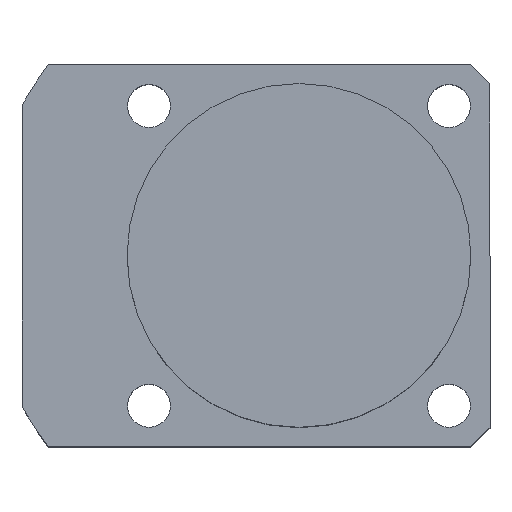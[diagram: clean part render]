
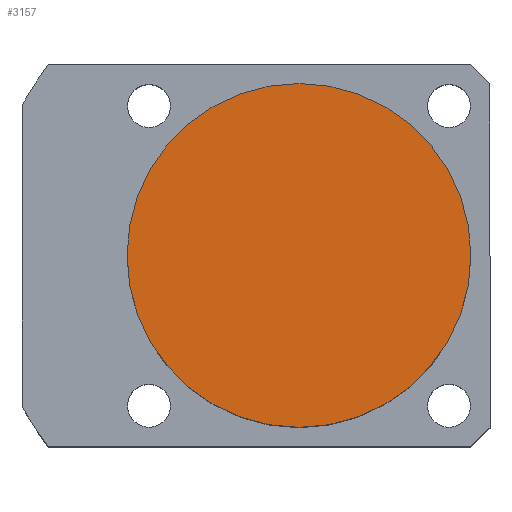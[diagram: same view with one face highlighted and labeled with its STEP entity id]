
A CAD part, top view. The second image highlights one B-rep face of the part: STEP entity #3157.
In plain terms, the highlighted planar face has unit normal (0, 0, 1).
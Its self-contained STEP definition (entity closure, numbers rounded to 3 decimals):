
#18 = DIRECTION ( 'NONE',  ( 0., 0., 1. ) ) ;
#254 = CARTESIAN_POINT ( 'NONE',  ( 18., 0., 33.5 ) ) ;
#405 = DIRECTION ( 'NONE',  ( 0., 0., 1. ) ) ;
#651 = CARTESIAN_POINT ( 'NONE',  ( -18., 0., 33.5 ) ) ;
#1021 = CIRCLE ( 'NONE', #1103, 18. ) ;
#1051 = VERTEX_POINT ( 'NONE', #651 ) ;
#1103 = AXIS2_PLACEMENT_3D ( 'NONE', #1266, #3468, #1585 ) ;
#1266 = CARTESIAN_POINT ( 'NONE',  ( 0., 0., 33.5 ) ) ;
#1509 = FACE_OUTER_BOUND ( 'NONE', #2399, .T. ) ;
#1585 = DIRECTION ( 'NONE',  ( 1., 0., 0. ) ) ;
#1612 = CIRCLE ( 'NONE', #1620, 18. ) ;
#1620 = AXIS2_PLACEMENT_3D ( 'NONE', #1904, #18, #2215 ) ;
#1661 = PLANE ( 'NONE',  #3081 ) ;
#1904 = CARTESIAN_POINT ( 'NONE',  ( 0., 0., 33.5 ) ) ;
#2215 = DIRECTION ( 'NONE',  ( 1., 0., 0. ) ) ;
#2271 = CARTESIAN_POINT ( 'NONE',  ( 0., 0., 33.5 ) ) ;
#2399 = EDGE_LOOP ( 'NONE', ( #2910, #3591 ) ) ;
#2605 = DIRECTION ( 'NONE',  ( 1., 0., 0. ) ) ;
#2910 = ORIENTED_EDGE ( 'NONE', *, *, #3352, .T. ) ;
#2952 = VERTEX_POINT ( 'NONE', #254 ) ;
#3039 = EDGE_CURVE ( 'NONE', #2952, #1051, #1612, .T. ) ;
#3081 = AXIS2_PLACEMENT_3D ( 'NONE', #2271, #405, #2605 ) ;
#3157 = ADVANCED_FACE ( 'NONE', ( #1509 ), #1661, .T. ) ;
#3352 = EDGE_CURVE ( 'NONE', #1051, #2952, #1021, .T. ) ;
#3468 = DIRECTION ( 'NONE',  ( 0., 0., 1. ) ) ;
#3591 = ORIENTED_EDGE ( 'NONE', *, *, #3039, .T. ) ;
